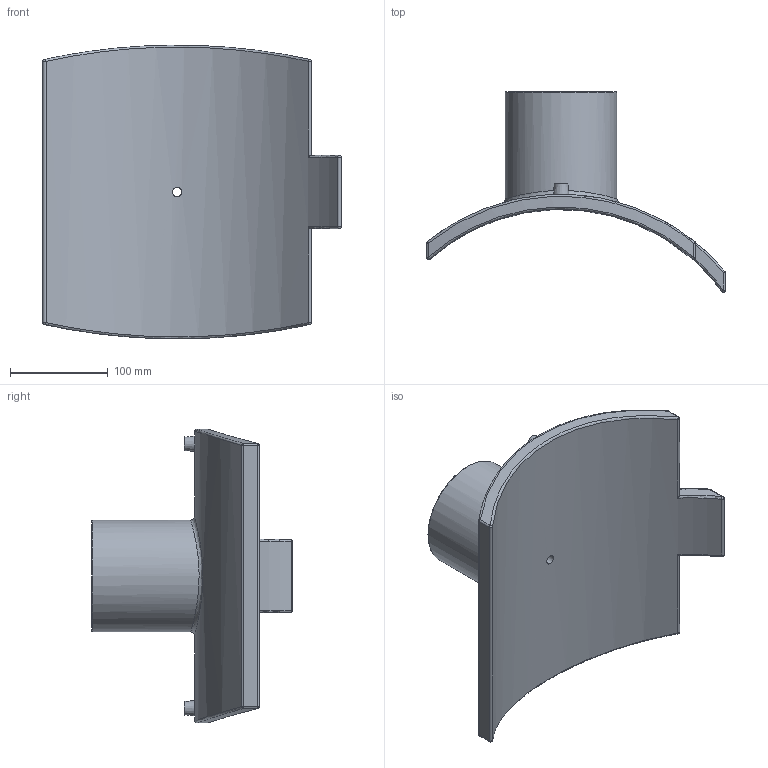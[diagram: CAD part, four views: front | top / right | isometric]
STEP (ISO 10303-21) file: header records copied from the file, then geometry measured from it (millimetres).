
FILE_DESCRIPTION(/* description */ ('PLASSON BRANCH SADDLE 10''''-16''''IPS x 10''''-14''''DIPS'),/* implementation_level */ '2;1');
FILE_NAME(/* name */ 'C:\Dropbox\KIMPROJECTS-Inventor 2019\99-16-3568-Processing Inch\ASTM ElectroFusion 2021\5958B-1\5958BB03160040.ipt.stp',/* time_stamp */ '2021-08-30T09:53:22+03:00',/* author */ ('KIM'),/* organization */ (''),/* preprocessor_version */ 'ST-DEVELOPER v17.2',/* originating_system */ 'Autodesk Inventor 2019',/* authorisation */ '');
FILE_SCHEMA (('AUTOMOTIVE_DESIGN { 1 0 10303 214 3 1 1 }'));
Length unit declared in the file: inch
Products named in the file (1): 5958BB03160040
Bounding box: 304.8 x 204.55 x 299.9 mm (x, y, z)
Volume: 1744684.5 mm3; surface area: 270367.3 mm2
Topology: 1 solids, 1 shells, 66 faces, 136 edges, 81 vertices
Faces by surface type: cylinder 27, plane 14, sphere 12, torus 6, bspline 5, cone 2
Full cylindrical faces by diameter (mm): 4 x2, 9.6 x1, 10 x2, 16 x1, 91.28 x1, 114.1 x1
Entity records: 2423 total; most frequent: CARTESIAN_POINT 989, DIRECTION 304, ORIENTED_EDGE 272, EDGE_CURVE 136, AXIS2_PLACEMENT_3D 132, VERTEX_POINT 81, EDGE_LOOP 77, CIRCLE 70
